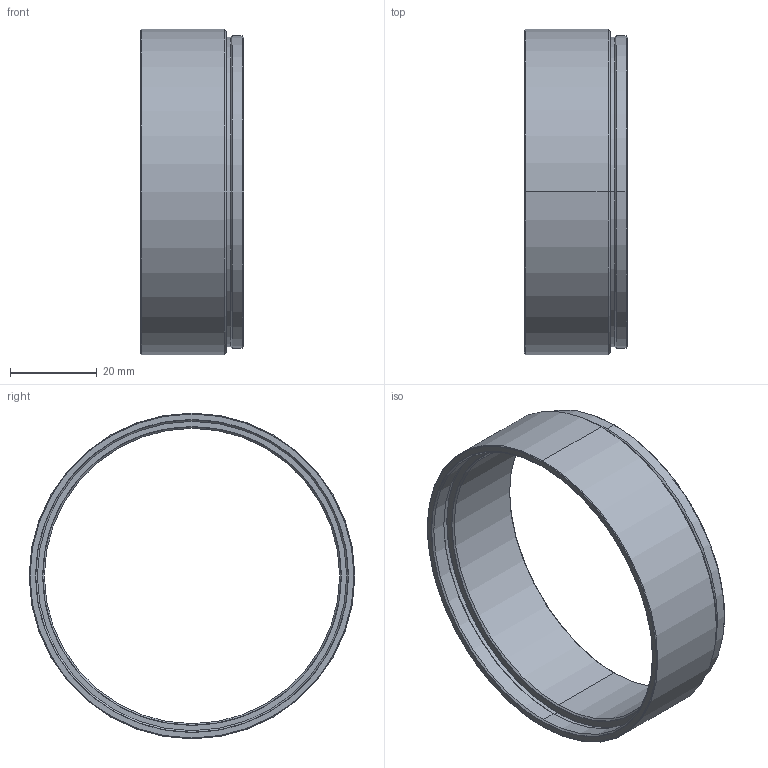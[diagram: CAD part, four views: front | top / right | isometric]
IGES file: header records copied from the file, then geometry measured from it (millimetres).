
Start section: SolidWorks IGES file using analytic representation for surfaces
Bounding box: 23.8 x 75 x 75 mm (x, y, z)
Surface area: 12227.1 mm2 (no closed solid volume)
Topology: 0 solids, 0 shells, 32 faces, 624 edges, 624 vertices
Faces by surface type: revolution 28, bspline 4
